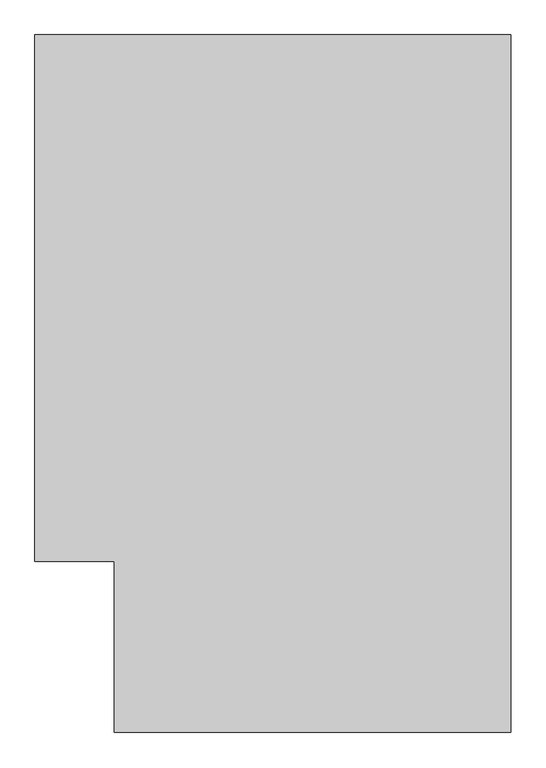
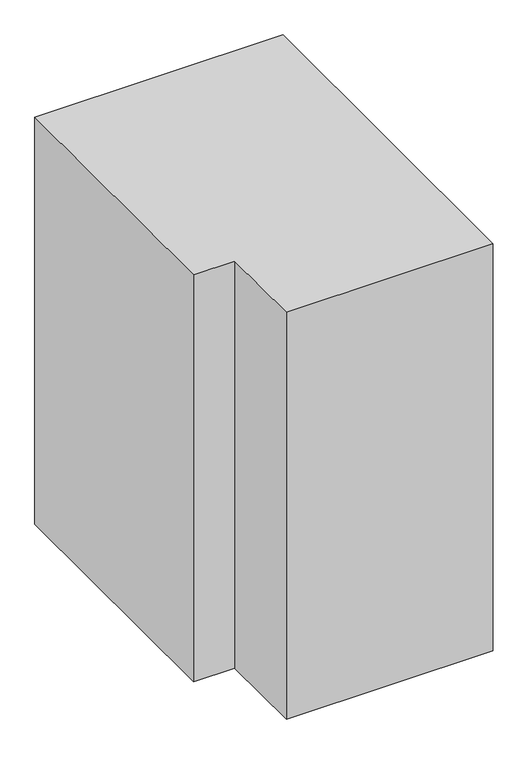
"""IFC4 building model written with IfcOpenShell, lengths in millimetres: proxy geometry."""

from ifc_helpers import new_model, si_unit, origin, origin_with_axes, place, context, project, spatial, polyline, outline, extrude, source, transform, mapped, element, save


def generic_models_c3d427af(model_context):
    return source(origin(), model_context, "Body", "SweptSolid", [
        extrude(outline(polyline([(-95044.9987767, -15299.999999), (-95044.9987767, -17499.999999), (-96294.9987767, -17499.999999), (-96294.9987767, -16959.999999), (-96544.9987767, -16959.999999), (-96544.9987767, -15299.999999), (-95044.9987767, -15299.999999)])), origin_with_axes(), (0.0, 0.0, 1.0), 2600.0),
    ])


if __name__ == "__main__":
    model = new_model("IFC4")
    model_context = context("Model", 3, world=origin())
    ifc_project = project(units=[si_unit("LENGTHUNIT", "METRE", prefix="MILLI")], contexts=[model_context])
    site = spatial("IfcSite", under=ifc_project)
    building = spatial("IfcBuilding", under=site)
    placement = place(None, origin())
    generic_models_shape = generic_models_c3d427af(model_context)
    element("IfcBuildingElementProxy", 1, Name="Generic Models", at=placement, inside=building, context=model_context, shape_type="MappedRepresentation", body=[
        mapped(generic_models_shape, transform((0.0, 0.0, 0.0), x_axis=(1.0, 0.0, 0.0), y_axis=(0.0, 1.0, 0.0), z_axis=(0.0, 0.0, 1.0))),
    ])
    save(model, "model.ifc")
